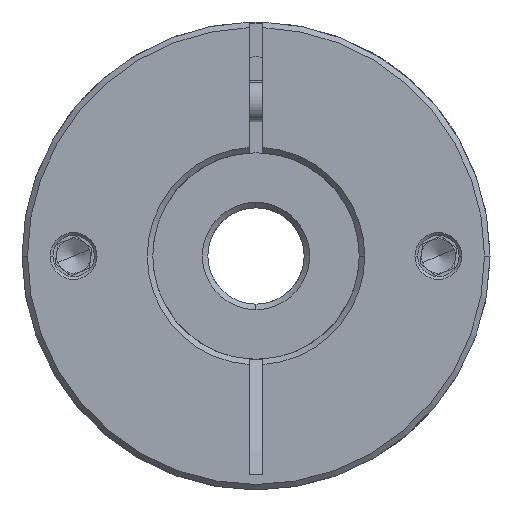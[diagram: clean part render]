
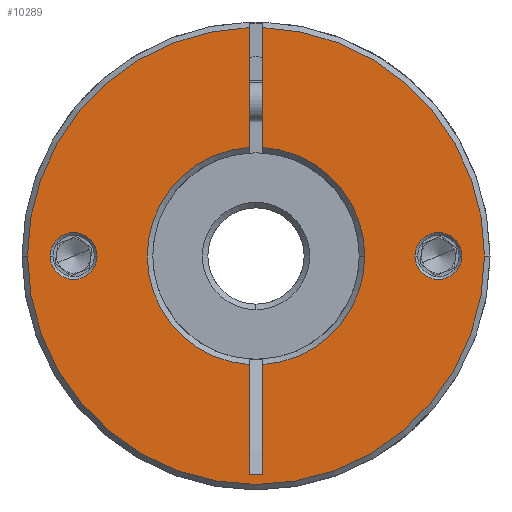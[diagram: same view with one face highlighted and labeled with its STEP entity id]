
A CAD part, front view. The second image highlights one B-rep face of the part: STEP entity #10289.
In plain terms, the highlighted planar face has unit normal (0, -1, 0).
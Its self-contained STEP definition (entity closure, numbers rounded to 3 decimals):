
#32 = EDGE_CURVE ( 'NONE', #285, #11807, #7583, .T. ) ;
#96 = EDGE_CURVE ( 'NONE', #11508, #9980, #5515, .T. ) ;
#99 = AXIS2_PLACEMENT_3D ( 'NONE', #5930, #11060, #8002 ) ;
#132 = DIRECTION ( 'NONE',  ( 1., 0., 0. ) ) ;
#238 = EDGE_LOOP ( 'NONE', ( #3043, #12939, #10304, #7259, #12247, #6778, #6241, #4323, #3667, #498, #2423 ) ) ;
#285 = VERTEX_POINT ( 'NONE', #13386 ) ;
#294 = AXIS2_PLACEMENT_3D ( 'NONE', #2629, #8720, #9714 ) ;
#498 = ORIENTED_EDGE ( 'NONE', *, *, #9090, .F. ) ;
#623 = DIRECTION ( 'NONE',  ( 0., 1., 0. ) ) ;
#797 = DIRECTION ( 'NONE',  ( 0., 0., -1. ) ) ;
#947 = AXIS2_PLACEMENT_3D ( 'NONE', #4609, #9846, #2576 ) ;
#962 = ORIENTED_EDGE ( 'NONE', *, *, #1712, .T. ) ;
#988 = VERTEX_POINT ( 'NONE', #4513 ) ;
#1008 = CARTESIAN_POINT ( 'NONE',  ( -35.935, -47.045, 68. ) ) ;
#1607 = DIRECTION ( 'NONE',  ( 0., 1., 0. ) ) ;
#1712 = EDGE_CURVE ( 'NONE', #8379, #988, #4975, .T. ) ;
#1864 = CARTESIAN_POINT ( 'NONE',  ( -2.735, -47.045, 68. ) ) ;
#1880 = EDGE_CURVE ( 'NONE', #988, #8379, #8829, .T. ) ;
#1960 = CIRCLE ( 'NONE', #9670, 15.8 ) ;
#2016 = CIRCLE ( 'NONE', #294, 33.2 ) ;
#2235 = VERTEX_POINT ( 'NONE', #1008 ) ;
#2355 = CARTESIAN_POINT ( 'NONE',  ( -29.235, -47.045, 68. ) ) ;
#2423 = ORIENTED_EDGE ( 'NONE', *, *, #11298, .T. ) ;
#2508 = DIRECTION ( 'NONE',  ( 0., 0., -1. ) ) ;
#2569 = CARTESIAN_POINT ( 'NONE',  ( -2.735, -47.045, 68. ) ) ;
#2576 = DIRECTION ( 'NONE',  ( 1., 0., 0. ) ) ;
#2629 = CARTESIAN_POINT ( 'NONE',  ( -2.735, -47.045, 68. ) ) ;
#2792 = DIRECTION ( 'NONE',  ( 1., 0., 0. ) ) ;
#2917 = AXIS2_PLACEMENT_3D ( 'NONE', #7473, #3671, #5638 ) ;
#2976 = LINE ( 'NONE', #5595, #3133 ) ;
#2998 = VERTEX_POINT ( 'NONE', #11033 ) ;
#3040 = VECTOR ( 'NONE', #6420, 1000. ) ;
#3043 = ORIENTED_EDGE ( 'NONE', *, *, #9806, .F. ) ;
#3133 = VECTOR ( 'NONE', #3628, 1000. ) ;
#3139 = CARTESIAN_POINT ( 'NONE',  ( -1.735, -47.045, 36.279 ) ) ;
#3539 = EDGE_CURVE ( 'NONE', #11807, #12803, #2976, .T. ) ;
#3628 = DIRECTION ( 'NONE',  ( -1., 0., 0. ) ) ;
#3667 = ORIENTED_EDGE ( 'NONE', *, *, #3539, .T. ) ;
#3671 = DIRECTION ( 'NONE',  ( 0., -1., 0. ) ) ;
#3684 = CARTESIAN_POINT ( 'NONE',  ( 30.465, -47.045, 68. ) ) ;
#3812 = AXIS2_PLACEMENT_3D ( 'NONE', #2569, #1607, #9976 ) ;
#4053 = VECTOR ( 'NONE', #2508, 1000. ) ;
#4149 = CARTESIAN_POINT ( 'NONE',  ( -1.735, -47.045, 68. ) ) ;
#4323 = ORIENTED_EDGE ( 'NONE', *, *, #32, .T. ) ;
#4381 = CARTESIAN_POINT ( 'NONE',  ( 20.365, -47.045, 68. ) ) ;
#4513 = CARTESIAN_POINT ( 'NONE',  ( -32.635, -47.045, 68. ) ) ;
#4533 = CARTESIAN_POINT ( 'NONE',  ( -3.735, -47.045, 36.279 ) ) ;
#4609 = CARTESIAN_POINT ( 'NONE',  ( 23.765, -47.045, 68. ) ) ;
#4616 = DIRECTION ( 'NONE',  ( 0., 1., 0. ) ) ;
#4975 = CIRCLE ( 'NONE', #10656, 3.4 ) ;
#5319 = CARTESIAN_POINT ( 'NONE',  ( -1.735, -47.045, 101.185 ) ) ;
#5368 = CARTESIAN_POINT ( 'NONE',  ( -25.835, -47.045, 68. ) ) ;
#5444 = CIRCLE ( 'NONE', #99, 33.2 ) ;
#5515 = CIRCLE ( 'NONE', #947, 3.4 ) ;
#5595 = CARTESIAN_POINT ( 'NONE',  ( -3.735, -47.045, 36.279 ) ) ;
#5638 = DIRECTION ( 'NONE',  ( 1., 0., 0. ) ) ;
#5686 = VERTEX_POINT ( 'NONE', #7700 ) ;
#5728 = AXIS2_PLACEMENT_3D ( 'NONE', #10214, #7477, #132 ) ;
#5792 = FACE_BOUND ( 'NONE', #11151, .T. ) ;
#5930 = CARTESIAN_POINT ( 'NONE',  ( -2.735, -47.045, 68. ) ) ;
#5981 = DIRECTION ( 'NONE',  ( 0., -1., 0. ) ) ;
#6053 = AXIS2_PLACEMENT_3D ( 'NONE', #10175, #8135, #10219 ) ;
#6241 = ORIENTED_EDGE ( 'NONE', *, *, #9854, .T. ) ;
#6302 = DIRECTION ( 'NONE',  ( 0., 1., 0. ) ) ;
#6378 = EDGE_CURVE ( 'NONE', #7878, #12232, #1960, .T. ) ;
#6407 = CIRCLE ( 'NONE', #3812, 15.8 ) ;
#6420 = DIRECTION ( 'NONE',  ( 0., 0., -1. ) ) ;
#6600 = CIRCLE ( 'NONE', #6053, 15.8 ) ;
#6778 = ORIENTED_EDGE ( 'NONE', *, *, #6378, .T. ) ;
#6820 = CARTESIAN_POINT ( 'NONE',  ( -1.735, -47.045, 83.768 ) ) ;
#6891 = VERTEX_POINT ( 'NONE', #9040 ) ;
#6916 = EDGE_CURVE ( 'NONE', #7597, #7878, #7146, .T. ) ;
#6981 = CARTESIAN_POINT ( 'NONE',  ( -1.735, -47.045, 68. ) ) ;
#7045 = EDGE_CURVE ( 'NONE', #9980, #11508, #7962, .T. ) ;
#7146 = LINE ( 'NONE', #6981, #12370 ) ;
#7259 = ORIENTED_EDGE ( 'NONE', *, *, #11613, .T. ) ;
#7401 = AXIS2_PLACEMENT_3D ( 'NONE', #12188, #5981, #2792 ) ;
#7473 = CARTESIAN_POINT ( 'NONE',  ( -2.735, -47.045, 68. ) ) ;
#7477 = DIRECTION ( 'NONE',  ( 0., 1., 0. ) ) ;
#7534 = DIRECTION ( 'NONE',  ( 1., 0., 0. ) ) ;
#7557 = CARTESIAN_POINT ( 'NONE',  ( -3.735, -47.045, 68. ) ) ;
#7583 = LINE ( 'NONE', #4149, #9702 ) ;
#7597 = VERTEX_POINT ( 'NONE', #5319 ) ;
#7678 = AXIS2_PLACEMENT_3D ( 'NONE', #9763, #4616, #7534 ) ;
#7700 = CARTESIAN_POINT ( 'NONE',  ( -3.735, -47.045, 52.232 ) ) ;
#7878 = VERTEX_POINT ( 'NONE', #6820 ) ;
#7962 = CIRCLE ( 'NONE', #5728, 3.4 ) ;
#8002 = DIRECTION ( 'NONE',  ( 1., 0., 0. ) ) ;
#8135 = DIRECTION ( 'NONE',  ( 0., 1., 0. ) ) ;
#8379 = VERTEX_POINT ( 'NONE', #5368 ) ;
#8620 = EDGE_CURVE ( 'NONE', #2998, #2235, #9707, .T. ) ;
#8720 = DIRECTION ( 'NONE',  ( 0., -1., 0. ) ) ;
#8829 = CIRCLE ( 'NONE', #7678, 3.4 ) ;
#8859 = LINE ( 'NONE', #12655, #3040 ) ;
#9003 = DIRECTION ( 'NONE',  ( 1., 0., 0. ) ) ;
#9040 = CARTESIAN_POINT ( 'NONE',  ( -3.735, -47.045, 83.768 ) ) ;
#9069 = CARTESIAN_POINT ( 'NONE',  ( 27.165, -47.045, 68. ) ) ;
#9090 = EDGE_CURVE ( 'NONE', #5686, #12803, #12805, .T. ) ;
#9670 = AXIS2_PLACEMENT_3D ( 'NONE', #1864, #623, #9003 ) ;
#9702 = VECTOR ( 'NONE', #10511, 1000. ) ;
#9707 = CIRCLE ( 'NONE', #7401, 33.2 ) ;
#9714 = DIRECTION ( 'NONE',  ( 1., 0., 0. ) ) ;
#9763 = CARTESIAN_POINT ( 'NONE',  ( -29.235, -47.045, 68. ) ) ;
#9806 = EDGE_CURVE ( 'NONE', #2998, #6891, #8859, .T. ) ;
#9846 = DIRECTION ( 'NONE',  ( 0., 1., 0. ) ) ;
#9854 = EDGE_CURVE ( 'NONE', #12232, #285, #6600, .T. ) ;
#9976 = DIRECTION ( 'NONE',  ( 1., 0., 0. ) ) ;
#9980 = VERTEX_POINT ( 'NONE', #4381 ) ;
#10164 = ORIENTED_EDGE ( 'NONE', *, *, #96, .T. ) ;
#10175 = CARTESIAN_POINT ( 'NONE',  ( -2.735, -47.045, 68. ) ) ;
#10214 = CARTESIAN_POINT ( 'NONE',  ( 23.765, -47.045, 68. ) ) ;
#10219 = DIRECTION ( 'NONE',  ( 1., 0., 0. ) ) ;
#10273 = PLANE ( 'NONE',  #2917 ) ;
#10289 = ADVANCED_FACE ( 'NONE', ( #5792, #11327, #11971 ), #10273, .T. ) ;
#10304 = ORIENTED_EDGE ( 'NONE', *, *, #12714, .T. ) ;
#10507 = DIRECTION ( 'NONE',  ( 1., 0., 0. ) ) ;
#10511 = DIRECTION ( 'NONE',  ( 0., 0., -1. ) ) ;
#10656 = AXIS2_PLACEMENT_3D ( 'NONE', #2355, #6302, #10507 ) ;
#11033 = CARTESIAN_POINT ( 'NONE',  ( -3.735, -47.045, 101.185 ) ) ;
#11060 = DIRECTION ( 'NONE',  ( 0., -1., 0. ) ) ;
#11078 = ORIENTED_EDGE ( 'NONE', *, *, #7045, .T. ) ;
#11151 = EDGE_LOOP ( 'NONE', ( #10164, #11078 ) ) ;
#11298 = EDGE_CURVE ( 'NONE', #5686, #6891, #6407, .T. ) ;
#11327 = FACE_BOUND ( 'NONE', #11539, .T. ) ;
#11508 = VERTEX_POINT ( 'NONE', #9069 ) ;
#11539 = EDGE_LOOP ( 'NONE', ( #962, #12842 ) ) ;
#11613 = EDGE_CURVE ( 'NONE', #12019, #7597, #5444, .T. ) ;
#11807 = VERTEX_POINT ( 'NONE', #3139 ) ;
#11971 = FACE_OUTER_BOUND ( 'NONE', #238, .T. ) ;
#12019 = VERTEX_POINT ( 'NONE', #3684 ) ;
#12188 = CARTESIAN_POINT ( 'NONE',  ( -2.735, -47.045, 68. ) ) ;
#12232 = VERTEX_POINT ( 'NONE', #12491 ) ;
#12247 = ORIENTED_EDGE ( 'NONE', *, *, #6916, .T. ) ;
#12370 = VECTOR ( 'NONE', #797, 1000. ) ;
#12491 = CARTESIAN_POINT ( 'NONE',  ( 13.065, -47.045, 68. ) ) ;
#12655 = CARTESIAN_POINT ( 'NONE',  ( -3.735, -47.045, 68. ) ) ;
#12714 = EDGE_CURVE ( 'NONE', #2235, #12019, #2016, .T. ) ;
#12803 = VERTEX_POINT ( 'NONE', #4533 ) ;
#12805 = LINE ( 'NONE', #7557, #4053 ) ;
#12842 = ORIENTED_EDGE ( 'NONE', *, *, #1880, .T. ) ;
#12939 = ORIENTED_EDGE ( 'NONE', *, *, #8620, .T. ) ;
#13386 = CARTESIAN_POINT ( 'NONE',  ( -1.735, -47.045, 52.232 ) ) ;
